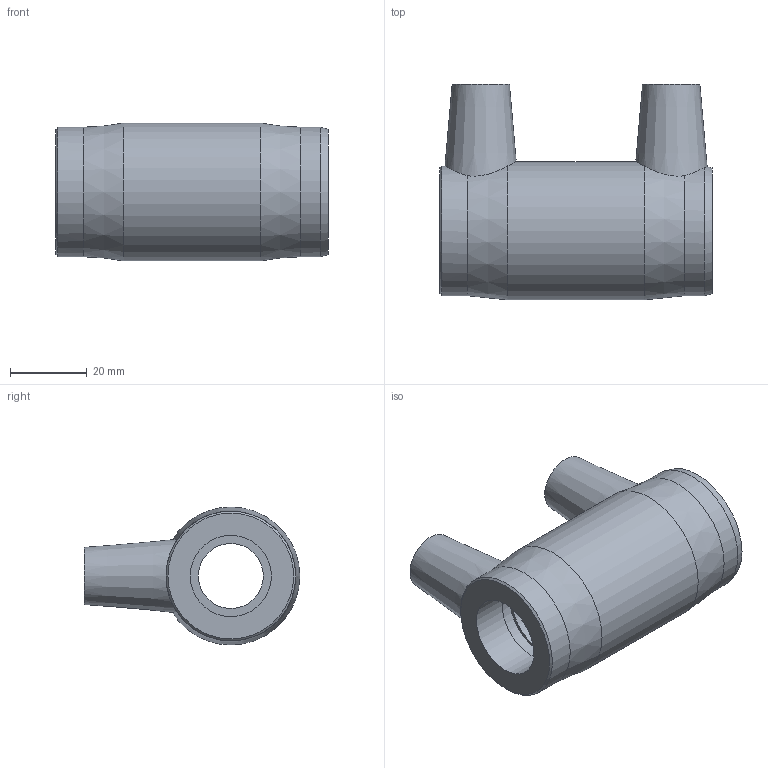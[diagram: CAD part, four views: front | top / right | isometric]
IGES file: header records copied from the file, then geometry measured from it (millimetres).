
Global section: file name: 5901B004005.ipt; native system: Autodesk Inventor 2019; preprocessor: unknown; author: KIM; date: 20210830.100904; units: inch
Bounding box: 71.12 x 56.39 x 36.07 mm (x, y, z)
Volume: 52424.2 mm3; surface area: 17392.7 mm2
Topology: 1 solids, 1 shells, 34 faces, 77 edges, 53 vertices
Faces by surface type: plane 12, revolution 11, cone 6, cylinder 5
Full cylindrical faces by diameter (mm): 4 x2, 33.904 x1, 36.068 x1
